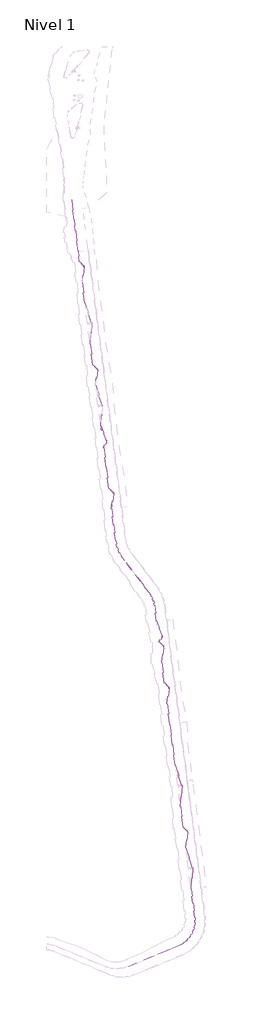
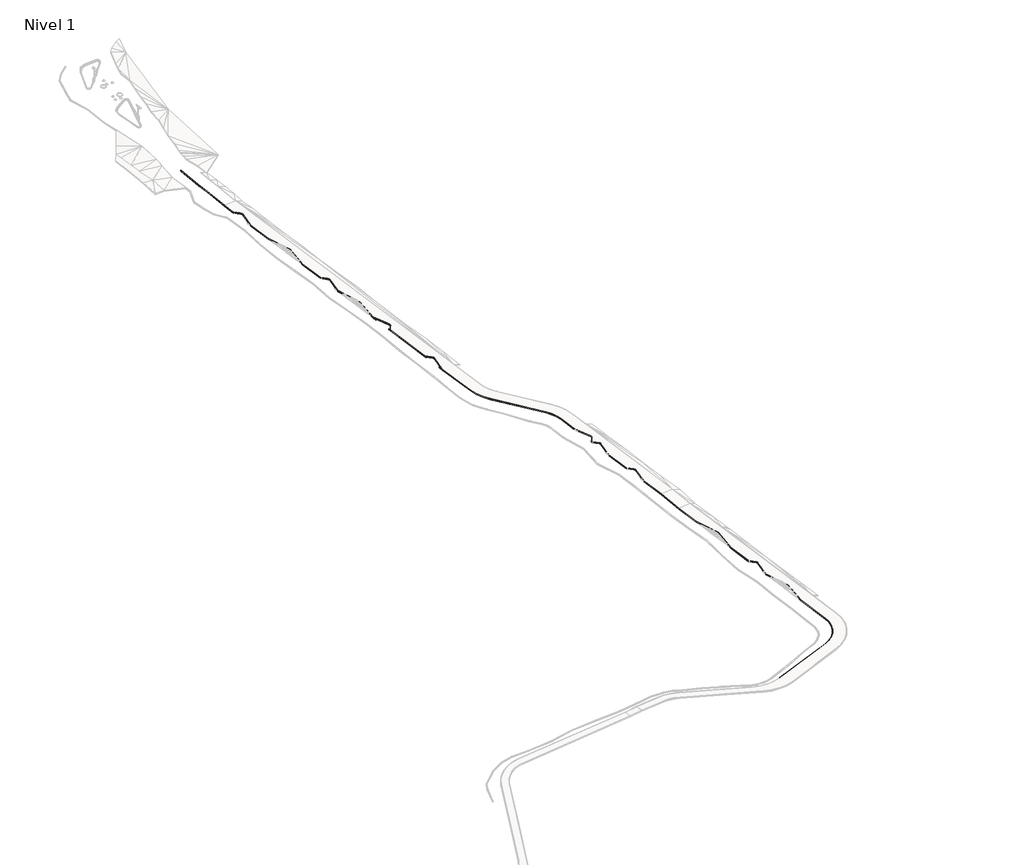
# One storey, part 33 of 45: 3 slabs.
"""IFC4 building model written with IfcOpenShell, lengths in millimetres."""

from ifc_helpers import new_model, si_unit, point, frame, frame_2d, origin, place, context, project, spatial, polyline, circle_curve, trimmed, segment, composite_curve, outline, extrude, element, save
from ifc_brep_helpers import plane_surface, cylinder_surface, revolved_surface, advanced_brep

model = new_model("IFC4")

# Units and contexts
model_context = context("Model", 3, world=origin())
ifc_project = project(units=[si_unit("LENGTHUNIT", "METRE", prefix="MILLI")], contexts=[model_context])

# Site, building, storey
site = spatial("IfcSite", under=ifc_project)
building = spatial("IfcBuilding", under=site)
storey = spatial("IfcBuildingStorey", under=building, Name="Nivel 1", Elevation=0.0)

# Slabs
placement = place(None, origin())
element("IfcSlab", 1, ObjectType="Bordillo", at=placement, inside=storey, context=model_context, shape_type="AdvancedBrep", body=[
    advanced_brep(
    [(-191752.4033753, 446877.2860207, 4350.0), (-191752.4033753, 446877.2860207, 4750.0), (-191809.5228519, 447015.9848449, 4750.0), (-191809.5228519, 447015.9848449, 4350.0), (-167709.0971534, 456941.1136943, 4750.0), (-167709.0971534, 456941.1136943, 4350.0), (-159981.0509617, 470263.5969741, 4750.0), (-159981.0509617, 470263.5969741, 4350.0), (-161775.4920715, 484112.1411496, 4750.0), (-161775.4920715, 484112.1411496, 4350.0), (-161077.1108433, 494283.8557062, 4750.0), (-161077.1108433, 494283.8557062, 4350.0), (-164345.3950718, 503943.9916437, 4750.0), (-164345.3950718, 503943.9916437, 4350.0), (-163385.5285954, 511173.6350351, 4750.0), (-163385.5285954, 511173.6350351, 4350.0), (-163689.9516479, 511993.7174483, 4750.0), (-163689.9516479, 511993.7174483, 4350.0), (-165630.2503622, 513861.1198989, 4750.0), (-165630.2503622, 513861.1198989, 4350.0), (-166916.4576109, 523787.3848475, 4750.0), (-166916.4576109, 523787.3848475, 4350.0), (-166218.2574986, 533956.5969171, 4750.0), (-166218.2574986, 533956.5969171, 4350.0), (-169485.4560414, 543613.5513551, 4750.0), (-169485.4560414, 543613.5513551, 4350.0), (-170770.8849864, 553533.8097694, 4750.0), (-172055.9037253, 563450.9024303, 5250.0), (-173341.2547359, 573370.5593883, 5250.0), (-173341.2547359, 573370.5593883, 4850.0), (-172055.9037253, 563450.9024303, 4850.0), (-170770.8849864, 553533.8097694, 4350.0), (-172381.7190355, 580597.7113986, 5250.0), (-172381.7190355, 580597.7113986, 4850.0), (-172683.5635527, 581415.263356, 5250.0), (-172683.5635527, 581415.263356, 4850.0), (-174625.8747591, 583284.5749733, 5250.0), (-174625.8747591, 583284.5749733, 4850.0), (-175911.1336954, 593203.5213511, 5250.0), (-175911.1336954, 593203.5213511, 4850.0), (-174951.4315532, 600431.9269892, 5250.0), (-174951.4315532, 600431.9269892, 4850.0), (-175250.9829701, 601247.2781028, 5250.0), (-175250.9829701, 601247.2781028, 4850.0), (-177196.1548619, 603119.3706476, 5250.0), (-177196.1548619, 603119.3706476, 4850.0), (-175793.0105859, 605424.1582618, 5250.0), (-175793.0105859, 605424.1582618, 4850.0), (-175710.4141445, 606290.1126058, 5250.0), (-175710.4141445, 606290.1126058, 4850.0), (-178481.0134431, 613036.4893962, 5250.0), (-178481.0134431, 613036.4893962, 4850.0), (-179466.4078394, 620641.2403939, 5250.0), (-179466.4078394, 620641.2403939, 4850.0), (-181959.909877, 626696.0192769, 5250.0), (-181959.909877, 626696.0192769, 4850.0), (-194650.3061727, 643304.5613222, 5250.0), (-194650.3061727, 643304.5613222, 4850.0), (-198129.3821314, 651752.5334234, 5250.0), (-198129.3821314, 651752.5334234, 4850.0), (-200129.2747526, 667186.6433225, 5250.0), (-200129.2747526, 667186.6433225, 4850.0), (-199168.9424952, 674414.3303817, 5250.0), (-199168.9424952, 674414.3303817, 4850.0), (-199470.7066865, 675231.9254725, 5250.0), (-199470.7066865, 675231.9254725, 4850.0), (-201414.1606005, 677102.7104021, 5250.0), (-201414.1606005, 677102.7104021, 4850.0), (-203984.8342511, 696941.8053698, 5250.0), (-203984.8342511, 696941.8053698, 4850.0), (-202582.3674662, 699246.1703275, 5250.0), (-202582.3674662, 699246.1703275, 4850.0), (-202498.83608, 700113.327676, 5250.0), (-202498.83608, 700113.327676, 4850.0), (-205269.7283256, 706857.8851835, 5250.0), (-205269.7283256, 706857.8851835, 4850.0), (-204571.2932164, 717030.482757, 5250.0), (-204571.2932164, 717030.482757, 4850.0), (-207839.5681431, 726690.6186945, 5250.0), (-207839.5681431, 726690.6186945, 4850.0), (-206879.3910327, 733920.2555993, 5250.0), (-206879.3910327, 733920.2555993, 4850.0), (-207178.3272401, 734734.5374719, 5250.0), (-207178.3272401, 734734.5374719, 4850.0), (-209124.6230109, 736607.9673091, 5250.0), (-209124.6230109, 736607.9673091, 4850.0), (-210409.8014175, 746526.292202, 5250.0), (-210409.8014175, 746526.292202, 4850.0), (-209711.3701695, 756698.8335382, 5250.0), (-209711.3701695, 756698.8335382, 4850.0), (-212979.6424897, 766358.9617715, 5250.0), (-212979.6424897, 766358.9617715, 4850.0), (-214264.5024268, 776274.828885, 5250.0), (-214264.5024268, 776274.828885, 4850.0), (-213306.81385, 783488.1341548, 5250.0), (-213306.81385, 783488.1341548, 4850.0), (-213608.5193686, 784325.5006785, 5250.0), (-213608.5193686, 784325.5006785, 4850.0), (-215549.7700715, 786193.8424695, 5250.0), (-215549.7700715, 786193.8424695, 4850.0), (-216192.1960794, 791151.7454603, 5250.0), (-217477.2148181, 801068.8381207, 5750.0), (-218119.4350585, 806025.153107, 5750.0), (-219404.7429263, 815944.4771121, 6250.0), (-219404.7429263, 815944.4771121, 5850.0), (-218119.4350585, 806025.153107, 5350.0), (-217477.2148181, 801068.8381207, 5350.0), (-216192.1960794, 791151.7454603, 4850.0), (-219255.9865365, 815963.7523932, 6250.0), (-219255.9865365, 815963.7523932, 5850.0), (-217970.9677979, 806046.659734, 5750.0), (-217970.9677979, 806046.659734, 5350.0), (-217328.4584283, 801088.1134017, 5750.0), (-217328.4584283, 801088.1134017, 5350.0), (-216043.4396896, 791171.0207414, 5250.0), (-216043.4396896, 791171.0207414, 4850.0), (-215407.785206, 786265.376782, 5250.0), (-215407.785206, 786265.376782, 4850.0), (-213499.8242939, 784429.0744036, 5250.0), (-213499.8242939, 784429.0744036, 4850.0), (-213154.1222704, 783498.4930944, 5250.0), (-213154.1222704, 783498.4930944, 4850.0), (-214113.2176747, 776274.5916073, 5250.0), (-214113.2176747, 776274.5916073, 4850.0), (-212832.794568, 766392.9655953, 5250.0), (-212832.794568, 766392.9655953, 4850.0), (-209559.6675729, 756718.4882576, 5250.0), (-209559.6675729, 756718.4882576, 4850.0), (-210259.1362671, 746530.8366807, 5250.0), (-210259.1362671, 746530.8366807, 4850.0), (-208982.6381189, 736679.5014153, 5250.0), (-208982.6381189, 736679.5014153, 4850.0), (-207073.2746585, 734841.8411962, 5250.0), (-207073.2746585, 734841.8411962, 4850.0), (-206730.6761136, 733903.0743397, 5250.0), (-206730.6761136, 733903.0743397, 4850.0), (-207686.2689375, 726705.5542697, 5250.0), (-207686.2689375, 726705.5542697, 4850.0), (-204419.5906198, 717050.1374763, 5250.0), (-204419.5906198, 717050.1374763, 4850.0), (-205117.6837799, 706882.520338, 5250.0), (-205117.6837799, 706882.520338, 4850.0), (-202359.121557, 700167.9750214, 5250.0), (-202359.121557, 700167.9750214, 4850.0), (-202454.2396451, 699168.1953076, 5250.0), (-202454.2396451, 699168.1953076, 4850.0), (-203829.3073429, 696908.8293797, 5250.0), (-203829.3073429, 696908.8293797, 4850.0), (-201272.1748478, 677174.2378634, 5250.0), (-201272.1748478, 677174.2378634, 4850.0), (-199366.6729851, 675340.0011711, 5250.0), (-199366.6729851, 675340.0011711, 4850.0), (-199019.9175106, 674397.0706424, 5250.0), (-199019.9175106, 674397.0706424, 4850.0), (-199977.9890221, 667186.3984903, 5250.0), (-199977.9890221, 667186.3984903, 4850.0), (-197980.6257425, 651771.8087074, 5250.0), (-197980.6257425, 651771.8087074, 4850.0), (-194531.0540114, 643395.5499638, 5250.0), (-194531.0540114, 643395.5499638, 4850.0), (-181840.7207033, 626787.0903533, 5250.0), (-181840.7207033, 626787.0903533, 4850.0), (-179317.6514514, 620660.5156819, 5250.0), (-179317.6514514, 620660.5156819, 4850.0), (-178334.7850986, 613075.2747819, 5250.0), (-178334.7850986, 613075.2747819, 4850.0), (-175570.7025337, 606344.7661615, 5250.0), (-175570.7025337, 606344.7661615, 4850.0), (-175666.8189576, 605342.9826292, 5250.0), (-175666.8189576, 605342.9826292, 4850.0), (-177005.5067574, 603144.0704339, 5250.0), (-177005.5067574, 603144.0704339, 4850.0), (-175146.8008777, 601355.1954069, 5250.0), (-175146.8008777, 601355.1954069, 4850.0), (-174802.4048673, 600414.6819461, 5250.0), (-174802.4048673, 600414.6819461, 4850.0), (-175759.8489322, 593203.2839796, 5250.0), (-175759.8489322, 593203.2839796, 4850.0), (-174483.8900528, 583356.1105053, 5250.0), (-174483.8900528, 583356.1105053, 4850.0), (-172579.5462691, 581523.3428887, 5250.0), (-172579.5462691, 581523.3428887, 4850.0), (-172232.6922349, 580580.46722, 5250.0), (-172232.6922349, 580580.46722, 4850.0), (-173189.9699727, 573370.3220163, 5250.0), (-173189.9699727, 573370.3220163, 4850.0), (-171907.1473369, 563470.1777123, 5250.0), (-170622.1285981, 553553.0850515, 4750.0), (-169338.6081218, 543647.5551851, 4750.0), (-169338.6081218, 543647.5551851, 4350.0), (-170622.1285981, 553553.0850515, 4350.0), (-171907.1473369, 563470.1777123, 4850.0), (-166066.5549083, 533976.2516549, 4750.0), (-166066.5549083, 533976.2516549, 4350.0), (-166765.7924631, 523791.9293428, 4750.0), (-166765.7924631, 523791.9293428, 4350.0), (-165488.2655648, 513932.6547307, 4750.0), (-165488.2655648, 513932.6547307, 4350.0), (-163580.5776375, 512096.6378926, 4750.0), (-163580.5776375, 512096.6378926, 4350.0), (-163236.5023, 511156.3870508, 4750.0), (-163236.5023, 511156.3870508, 4350.0), (-164192.0958272, 503958.9271977, 4750.0), (-164192.0958272, 503958.9271977, 4350.0), (-160925.4082257, 494303.510444, 4750.0), (-160925.4082257, 494303.510444, 4350.0), (-161624.826915, 484116.6855752, 4750.0), (-161624.826915, 484116.6855752, 4350.0), (-159832.2945725, 470282.8722606, 4750.0), (-159832.2945725, 470282.8722606, 4350.0), (-167651.977673, 456802.4148667, 4750.0), (-167651.977673, 456802.4148667, 4350.0), (-187940.3370927, 448447.18563, 4750.0), (-187940.3370927, 448447.18563, 4350.0)],
    [
        (0, 1),
        (1, 2),
        (2, 3),
        (3, 0),
        (2, 4),
        (4, 5),
        (5, 3),
        (4, 6, circle_curve(frame((-172526.1731767, 468638.048275, 4750.0), z_axis=(0.0, 0.0, 1.0), x_axis=(1.0, 0.0, 0.0)), 12649.9999985)),
        (6, 7),
        (7, 5, circle_curve(frame((-172526.1731767, 468638.048275, 4350.0), z_axis=(0.0, 0.0, -1.0), x_axis=(1.0, 0.0, 0.0)), 12649.9999985)),
        (6, 8),
        (8, 9),
        (9, 7),
        (8, 10),
        (10, 11),
        (11, 9),
        (10, 12),
        (12, 13),
        (13, 11),
        (12, 14),
        (14, 15),
        (15, 13),
        (14, 16, circle_curve(frame((-164380.8044938, 511270.7220489, 4750.0), z_axis=(0.0, 0.0, 1.0), x_axis=(1.0, 0.0, 0.0)), 1000.0000011)),
        (16, 17),
        (17, 15, circle_curve(frame((-164380.8044938, 511270.7220489, 4350.0), z_axis=(0.0, 0.0, -1.0), x_axis=(1.0, 0.0, 0.0)), 1000.0000011)),
        (16, 18),
        (18, 19),
        (19, 17),
        (18, 20),
        (20, 21),
        (21, 19),
        (20, 22),
        (22, 23),
        (23, 21),
        (22, 24),
        (24, 25),
        (25, 23),
        (24, 26),
        (26, 27),
        (27, 28),
        (28, 29),
        (29, 30),
        (30, 31),
        (31, 25),
        (28, 32),
        (32, 33),
        (33, 29),
        (32, 34, circle_curve(frame((-173377.0000821, 580694.7456362, 5250.0), z_axis=(0.0, 0.0, 1.0), x_axis=(1.0, 0.0, 0.0)), 1000.0000025)),
        (34, 35),
        (35, 33, circle_curve(frame((-173377.0000821, 580694.7456362, 4850.0), z_axis=(0.0, 0.0, -1.0), x_axis=(1.0, 0.0, 0.0)), 1000.0000025)),
        (34, 36),
        (36, 37),
        (37, 35),
        (36, 38),
        (38, 39),
        (39, 37),
        (38, 40),
        (40, 41),
        (41, 39),
        (40, 42, circle_curve(frame((-175946.7114283, 600528.9732149, 5250.0), z_axis=(0.0, 0.0, 1.0), x_axis=(1.0, 0.0, 0.0)), 999.9999998)),
        (42, 43),
        (43, 41, circle_curve(frame((-175946.7114283, 600528.9732149, 4850.0), z_axis=(0.0, 0.0, -1.0), x_axis=(1.0, 0.0, 0.0)), 999.9999998)),
        (42, 44),
        (44, 45),
        (45, 43),
        (44, 46),
        (46, 47),
        (47, 45),
        (46, 48, circle_curve(frame((-176648.1023864, 605942.6348904, 5250.0), z_axis=(0.0, 0.0, 1.0), x_axis=(1.0, 0.0, 0.0)), 1000.0000009)),
        (48, 49),
        (49, 47, circle_curve(frame((-176648.1023864, 605942.6348904, 4850.0), z_axis=(0.0, 0.0, -1.0), x_axis=(1.0, 0.0, 0.0)), 1000.0000009)),
        (48, 50),
        (50, 51),
        (51, 49),
        (50, 52),
        (52, 53),
        (53, 51),
        (52, 54, circle_curve(frame((-192011.530073, 619015.691687, 5250.0), z_axis=(0.0, 0.0, 1.0), x_axis=(1.0, 0.0, 0.0)), 12650.0000179)),
        (54, 55),
        (55, 53, circle_curve(frame((-192011.530073, 619015.691687, 4850.0), z_axis=(0.0, 0.0, -1.0), x_axis=(1.0, 0.0, 0.0)), 12650.0000179)),
        (54, 56),
        (56, 57),
        (57, 55),
        (56, 58, circle_curve(frame((-180625.7135945, 654020.5914961, 5250.0), z_axis=(0.0, 0.0, -1.0), x_axis=(1.0, 0.0, 0.0)), 17649.9999906)),
        (58, 59),
        (59, 57, circle_curve(frame((-180625.7135945, 654020.5914961, 4850.0), z_axis=(0.0, 0.0, 1.0), x_axis=(1.0, 0.0, 0.0)), 17649.9999906)),
        (58, 60),
        (60, 61),
        (61, 59),
        (60, 62),
        (62, 63),
        (63, 61),
        (62, 64, circle_curve(frame((-200164.2127988, 674511.4747291, 5250.0), z_axis=(0.0, 0.0, 1.0), x_axis=(1.0, 0.0, 0.0)), 1000.0000007)),
        (64, 65),
        (65, 63, circle_curve(frame((-200164.2127988, 674511.4747291, 4850.0), z_axis=(0.0, 0.0, -1.0), x_axis=(1.0, 0.0, 0.0)), 1000.0000007)),
        (64, 66),
        (66, 67),
        (67, 65),
        (66, 68),
        (68, 69),
        (69, 67),
        (68, 70),
        (70, 71),
        (71, 69),
        (70, 72, circle_curve(frame((-203436.6063179, 699766.0713145, 5250.0), z_axis=(0.0, 0.0, 1.0), x_axis=(1.0, 0.0, 0.0)), 999.9999998)),
        (72, 73),
        (73, 71, circle_curve(frame((-203436.6063179, 699766.0713145, 4850.0), z_axis=(0.0, 0.0, -1.0), x_axis=(1.0, 0.0, 0.0)), 999.9999998)),
        (72, 74),
        (74, 75),
        (75, 73),
        (74, 76),
        (76, 77),
        (77, 75),
        (76, 78),
        (78, 79),
        (79, 77),
        (78, 80),
        (80, 81),
        (81, 79),
        (80, 82, circle_curve(frame((-207874.5464643, 734016.9308714, 5250.0), z_axis=(0.0, 0.0, 1.0), x_axis=(1.0, 0.0, 0.0)), 999.8402079)),
        (82, 83),
        (83, 81, circle_curve(frame((-207874.5464643, 734016.9308714, 4850.0), z_axis=(0.0, 0.0, -1.0), x_axis=(1.0, 0.0, 0.0)), 999.8402079)),
        (82, 84),
        (84, 85),
        (85, 83),
        (84, 86),
        (86, 87),
        (87, 85),
        (86, 88),
        (88, 89),
        (89, 87),
        (88, 90),
        (90, 91),
        (91, 89),
        (90, 92),
        (92, 93),
        (93, 91),
        (92, 94),
        (94, 95),
        (95, 93),
        (94, 96, circle_curve(frame((-214300.1617277, 783603.2640509, 5250.0), z_axis=(0.0, 0.0, 1.0), x_axis=(1.0, 0.0, 0.0)), 999.9974495)),
        (96, 97),
        (97, 95, circle_curve(frame((-214300.1617277, 783603.2640509, 4850.0), z_axis=(0.0, 0.0, -1.0), x_axis=(1.0, 0.0, 0.0)), 999.9974495)),
        (96, 98),
        (98, 99),
        (99, 97),
        (98, 100),
        (100, 101),
        (101, 102),
        (102, 103),
        (103, 104),
        (104, 105),
        (105, 106),
        (106, 107),
        (107, 99),
        (103, 108),
        (108, 109),
        (109, 104),
        (108, 110),
        (110, 111),
        (111, 109),
        (110, 112),
        (112, 113),
        (113, 111),
        (112, 114),
        (114, 115),
        (115, 113),
        (114, 116),
        (116, 117),
        (117, 115),
        (116, 118),
        (118, 119),
        (119, 117),
        (118, 120, circle_curve(frame((-214299.4041498, 783602.5350161, 5250.0), z_axis=(0.0, 0.0, -1.0), x_axis=(1.0, 0.0, 0.0)), 1149.9979587)),
        (120, 121),
        (121, 119, circle_curve(frame((-214299.4041498, 783602.5350161, 4850.0), z_axis=(0.0, 0.0, 1.0), x_axis=(1.0, 0.0, 0.0)), 1149.9979587)),
        (120, 122),
        (122, 123),
        (123, 121),
        (122, 124),
        (124, 125),
        (125, 123),
        (124, 126),
        (126, 127),
        (127, 125),
        (126, 128),
        (128, 129),
        (129, 127),
        (128, 130),
        (130, 131),
        (131, 129),
        (130, 132),
        (132, 133),
        (133, 131),
        (132, 134, circle_curve(frame((-207874.9829101, 734017.3632527, 5250.0), z_axis=(0.0, 0.0, -1.0), x_axis=(1.0, 0.0, 0.0)), 1150.0)),
        (134, 135),
        (135, 133, circle_curve(frame((-207874.9829101, 734017.3632527, 4850.0), z_axis=(0.0, 0.0, 1.0), x_axis=(1.0, 0.0, 0.0)), 1150.0)),
        (134, 136),
        (136, 137),
        (137, 135),
        (136, 138),
        (138, 139),
        (139, 137),
        (138, 140),
        (140, 141),
        (141, 139),
        (140, 142),
        (142, 143),
        (143, 141),
        (142, 144, circle_curve(frame((-203436.6063179, 699766.0713145, 5250.0), z_axis=(0.0, 0.0, -1.0), x_axis=(1.0, 0.0, 0.0)), 1149.9999998)),
        (144, 145),
        (145, 143, circle_curve(frame((-203436.6063179, 699766.0713145, 4850.0), z_axis=(0.0, 0.0, 1.0), x_axis=(1.0, 0.0, 0.0)), 1149.9999998)),
        (144, 146),
        (146, 147),
        (147, 145),
        (146, 148),
        (148, 149),
        (149, 147),
        (148, 150),
        (150, 151),
        (151, 149),
        (150, 152, circle_curve(frame((-200164.2127988, 674511.4747291, 5250.0), z_axis=(0.0, 0.0, -1.0), x_axis=(1.0, 0.0, 0.0)), 1150.0000007)),
        (152, 153),
        (153, 151, circle_curve(frame((-200164.2127988, 674511.4747291, 4850.0), z_axis=(0.0, 0.0, 1.0), x_axis=(1.0, 0.0, 0.0)), 1150.0000007)),
        (152, 154),
        (154, 155),
        (155, 153),
        (154, 156),
        (156, 157),
        (157, 155),
        (156, 158, circle_curve(frame((-180625.7135884, 654020.5914999, 5250.0), z_axis=(0.0, 0.0, 1.0), x_axis=(1.0, 0.0, 0.0)), 17499.9999978)),
        (158, 159),
        (159, 157, circle_curve(frame((-180625.7135884, 654020.5914999, 4850.0), z_axis=(0.0, 0.0, -1.0), x_axis=(1.0, 0.0, 0.0)), 17499.9999978)),
        (158, 160),
        (160, 161),
        (161, 159),
        (160, 162, circle_curve(frame((-192011.530057, 619015.6916963, 5250.0), z_axis=(0.0, 0.0, -1.0), x_axis=(1.0, 0.0, 0.0)), 12799.9999999)),
        (162, 163),
        (163, 161, circle_curve(frame((-192011.530057, 619015.6916963, 4850.0), z_axis=(0.0, 0.0, 1.0), x_axis=(1.0, 0.0, 0.0)), 12799.9999999)),
        (162, 164),
        (164, 165),
        (165, 163),
        (164, 166),
        (166, 167),
        (167, 165),
        (166, 168, circle_curve(frame((-176648.1023864, 605942.6348904, 5250.0), z_axis=(0.0, 0.0, -1.0), x_axis=(1.0, 0.0, 0.0)), 1150.0000009)),
        (168, 169),
        (169, 167, circle_curve(frame((-176648.1023864, 605942.6348904, 4850.0), z_axis=(0.0, 0.0, 1.0), x_axis=(1.0, 0.0, 0.0)), 1150.0000009)),
        (168, 170),
        (170, 171),
        (171, 169),
        (170, 172),
        (172, 173),
        (173, 171),
        (172, 174, circle_curve(frame((-175946.7114283, 600528.9732149, 5250.0), z_axis=(0.0, 0.0, -1.0), x_axis=(1.0, 0.0, 0.0)), 1149.9999998)),
        (174, 175),
        (175, 173, circle_curve(frame((-175946.7114283, 600528.9732149, 4850.0), z_axis=(0.0, 0.0, 1.0), x_axis=(1.0, 0.0, 0.0)), 1149.9999998)),
        (174, 176),
        (176, 177),
        (177, 175),
        (176, 178),
        (178, 179),
        (179, 177),
        (178, 180),
        (180, 181),
        (181, 179),
        (180, 182, circle_curve(frame((-173377.0000821, 580694.7456362, 5250.0), z_axis=(0.0, 0.0, -1.0), x_axis=(1.0, 0.0, 0.0)), 1150.0000025)),
        (182, 183),
        (183, 181, circle_curve(frame((-173377.0000821, 580694.7456362, 4850.0), z_axis=(0.0, 0.0, 1.0), x_axis=(1.0, 0.0, 0.0)), 1150.0000025)),
        (182, 184),
        (184, 185),
        (185, 183),
        (184, 186),
        (186, 187),
        (187, 188),
        (188, 189),
        (189, 190),
        (190, 191),
        (191, 185),
        (188, 192),
        (192, 193),
        (193, 189),
        (192, 194),
        (194, 195),
        (195, 193),
        (194, 196),
        (196, 197),
        (197, 195),
        (196, 198),
        (198, 199),
        (199, 197),
        (198, 200, circle_curve(frame((-164380.8044938, 511270.7220489, 4750.0), z_axis=(0.0, 0.0, -1.0), x_axis=(1.0, 0.0, 0.0)), 1150.0000011)),
        (200, 201),
        (201, 199, circle_curve(frame((-164380.8044938, 511270.7220489, 4350.0), z_axis=(0.0, 0.0, 1.0), x_axis=(1.0, 0.0, 0.0)), 1150.0000011)),
        (200, 202),
        (202, 203),
        (203, 201),
        (202, 204),
        (204, 205),
        (205, 203),
        (204, 206),
        (206, 207),
        (207, 205),
        (206, 208),
        (208, 209),
        (209, 207),
        (208, 210, circle_curve(frame((-172526.173178, 468638.048275, 4750.0), z_axis=(0.0, 0.0, -1.0), x_axis=(1.0, 0.0, 0.0)), 12799.9999999)),
        (210, 211),
        (211, 209, circle_curve(frame((-172526.173178, 468638.048275, 4350.0), z_axis=(0.0, 0.0, 1.0), x_axis=(1.0, 0.0, 0.0)), 12799.9999999)),
        (210, 212),
        (212, 213),
        (213, 211),
        (212, 1),
        (0, 213),
        (187, 26),
        (31, 190),
        (110, 102),
        (101, 112),
        (113, 106),
        (105, 111),
        (103, 110),
        (111, 104),
        (100, 114),
        (115, 107),
        (27, 186),
        (191, 30),
    ],
    [
        plane_surface(frame((-191752.4033753, 446877.2860207, 4600.0), z_axis=(-0.9246588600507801, -0.38079652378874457, 0.0), x_axis=(0.0, 0.0, 1.0))),
        plane_surface(frame((-191809.5228519, 447015.9848449, 4600.0), z_axis=(-0.38079652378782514, 0.9246588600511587, 0.0), x_axis=(0.0, 0.0, 1.0))),
        revolved_surface(polyline([(-159876.1731782, 468638.048275, 4750.0), (-159876.1731782, 468638.048275, 4350.0)]), (-172526.1731767, 468638.048275, 5000.0), (0.0, 0.0, 1.0)),
        plane_surface(frame((-159981.0509617, 470263.5969741, 4600.0), z_axis=(-0.991709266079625, -0.1285018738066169, 0.0), x_axis=(0.0, 0.0, 1.0))),
        plane_surface(frame((-161775.4920715, 484112.1411496, 4600.0), z_axis=(-0.9976512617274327, 0.06849788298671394, 0.0), x_axis=(0.0, 0.0, 1.0))),
        plane_surface(frame((-161077.1108433, 494283.8557062, 4600.0), z_axis=(-0.9472546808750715, -0.32048177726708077, 0.0), x_axis=(0.0, 0.0, 1.0))),
        plane_surface(frame((-164345.3950718, 503943.9916437, 4600.0), z_axis=(-0.9913011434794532, 0.1316132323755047, 0.0), x_axis=(0.0, 0.0, 1.0))),
        revolved_surface(polyline([(-163380.8044927, 511270.7220489, 4750.0), (-163380.8044927, 511270.7220489, 4350.0)]), (-164380.8044938, 511270.7220489, 5000.0), (0.0, 0.0, 1.0)),
        plane_surface(frame((-163689.9516479, 511993.7174483, 4600.0), z_axis=(-0.6934425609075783, -0.7205119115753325, 0.0), x_axis=(0.0, 0.0, 1.0))),
        plane_surface(frame((-165630.2503622, 513861.1198989, 4600.0), z_axis=(-0.9917092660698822, -0.1285018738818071, 0.0), x_axis=(0.0, 0.0, 1.0))),
        plane_surface(frame((-166916.4576109, 523787.3848475, 4600.0), z_axis=(-0.9976513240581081, 0.06849697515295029, 0.0), x_axis=(0.0, 0.0, 1.0))),
        plane_surface(frame((-166218.2574986, 533956.5969171, 4600.0), z_axis=(-0.9472549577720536, -0.3204809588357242, 0.0), x_axis=(0.0, 0.0, 1.0))),
        plane_surface(frame((-169485.4560414, 543613.5513551, 4600.0), z_axis=(-0.9917092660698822, -0.12850187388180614, 0.0), x_axis=(0.0, 0.0, 1.0))),
        plane_surface(frame((-173341.2547359, 573370.5593883, 4600.0), z_axis=(-0.991301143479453, 0.13161323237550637, 0.0), x_axis=(0.0, 0.0, 1.0))),
        revolved_surface(polyline([(-172377.00007960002, 580694.7456362, 5250.0), (-172377.00007960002, 580694.7456362, 4850.0)]), (-173377.0000821, 580694.7456362, 5000.0), (0.0, 0.0, 1.0)),
        plane_surface(frame((-172683.5617482, 581415.265231, 4600.0), z_axis=(-0.6934365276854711, -0.7205177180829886, 0.0), x_axis=(0.0, 0.0, 1.0))),
        plane_surface(frame((-174625.8747591, 583284.5749733, 4600.0), z_axis=(-0.991709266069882, -0.12850187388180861, 0.0), x_axis=(0.0, 0.0, 1.0))),
        plane_surface(frame((-175911.1336954, 593203.5213511, 4600.0), z_axis=(-0.9913011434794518, 0.13161323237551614, 0.0), x_axis=(0.0, 0.0, 1.0))),
        revolved_surface(polyline([(-174946.7114285, 600528.9732149, 5250.0), (-174946.7114285, 600528.9732149, 4850.0)]), (-175946.7114283, 600528.9732149, 5000.0), (0.0, 0.0, 1.0)),
        plane_surface(frame((-175250.9829701, 601247.2781028, 4600.0), z_axis=(-0.6934425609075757, -0.720511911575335, 0.0), x_axis=(0.0, 0.0, 1.0))),
        plane_surface(frame((-177196.1548619, 603119.3706476, 4600.0), z_axis=(-0.8541606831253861, 0.5200091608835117, 0.0), x_axis=(0.0, 0.0, 1.0))),
        revolved_surface(polyline([(-175648.10238549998, 605942.6348904, 5250.0), (-175648.10238549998, 605942.6348904, 4850.0)]), (-176648.1023864, 605942.6348904, 5000.0), (0.0, 0.0, 1.0)),
        plane_surface(frame((-175710.4141445, 606290.1126058, 4600.0), z_axis=(-0.9250310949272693, -0.3798913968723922, 0.0), x_axis=(0.0, 0.0, 1.0))),
        plane_surface(frame((-178481.0134431, 613036.4893962, 4600.0), z_axis=(-0.9917092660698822, -0.1285018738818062, 0.0), x_axis=(0.0, 0.0, 1.0))),
        revolved_surface(polyline([(-179361.5300551, 619015.691687, 5250.0), (-179361.5300551, 619015.691687, 4850.0)]), (-192011.530073, 619015.691687, 5000.0), (0.0, 0.0, 1.0)),
        plane_surface(frame((-181959.909877, 626696.0192769, 4600.0), z_axis=(-0.7945944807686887, -0.6071405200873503, 0.0), x_axis=(0.0, 0.0, 1.0))),
        cylinder_surface(frame((-180625.7135945, 654020.5914961, 5000.0), z_axis=(0.0, 0.0, -1.0), x_axis=(1.0, 0.0, 0.0)), 17649.9999906),
        plane_surface(frame((-198129.3821314, 651752.5334234, 4600.0), z_axis=(-0.991709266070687, -0.128501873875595, 0.0), x_axis=(0.0, 0.0, 1.0))),
        plane_surface(frame((-200129.2747526, 667186.6433225, 4600.0), z_axis=(-0.9912881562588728, 0.13171101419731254, 0.0), x_axis=(0.0, 0.0, 1.0))),
        revolved_surface(polyline([(-199164.2127981, 674511.4747291, 5250.0), (-199164.2127981, 674511.4747291, 4850.0)]), (-200164.2127988, 674511.4747291, 5000.0), (0.0, 0.0, 1.0)),
        plane_surface(frame((-199470.6989019, 675231.9335596, 4600.0), z_axis=(-0.6935061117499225, -0.7204507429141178, 0.0), x_axis=(0.0, 0.0, 1.0))),
        plane_surface(frame((-201414.1606005, 677102.7104021, 4600.0), z_axis=(-0.9917092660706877, -0.12850187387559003, 0.0), x_axis=(0.0, 0.0, 1.0))),
        plane_surface(frame((-203984.8342511, 696941.8053698, 4600.0), z_axis=(-0.8542298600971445, 0.5198955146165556, 0.0), x_axis=(0.0, 0.0, 1.0))),
        revolved_surface(polyline([(-202436.6063181, 699766.0713145, 5250.0), (-202436.6063181, 699766.0713145, 4850.0)]), (-203436.6063179, 699766.0713145, 5000.0), (0.0, 0.0, 1.0)),
        plane_surface(frame((-202498.83608, 700113.327676, 4600.0), z_axis=(-0.924980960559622, -0.380013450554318, 0.0), x_axis=(0.0, 0.0, 1.0))),
        plane_surface(frame((-205269.7283256, 706857.8851835, 4600.0), z_axis=(-0.9976513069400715, 0.06849722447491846, 0.0), x_axis=(0.0, 0.0, 1.0))),
        plane_surface(frame((-204571.2932164, 717030.482757, 4600.0), z_axis=(-0.9472549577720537, -0.3204809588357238, 0.0), x_axis=(0.0, 0.0, 1.0))),
        plane_surface(frame((-207839.5681431, 726690.6186945, 4600.0), z_axis=(-0.9912955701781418, 0.13165520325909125, 0.0), x_axis=(0.0, 0.0, 1.0))),
        revolved_surface(polyline([(-206874.70625639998, 734016.9308714, 5250.0), (-206874.70625639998, 734016.9308714, 4850.0)]), (-207874.5464643, 734016.9308714, 5000.0), (0.0, 0.0, 1.0)),
        plane_surface(frame((-207178.3272401, 734734.5374719, 4600.0), z_axis=(-0.6934916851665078, -0.7204646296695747, 0.0), x_axis=(0.0, 0.0, 1.0))),
        plane_surface(frame((-209124.6230109, 736607.9673091, 4600.0), z_axis=(-0.9917092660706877, -0.12850187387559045, 0.0), x_axis=(0.0, 0.0, 1.0))),
        plane_surface(frame((-210409.8014175, 746526.292202, 4600.0), z_axis=(-0.9976513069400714, 0.06849722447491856, 0.0), x_axis=(0.0, 0.0, 1.0))),
        plane_surface(frame((-209711.3701695, 756698.8335382, 4600.0), z_axis=(-0.9472549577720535, -0.32048095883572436, 0.0), x_axis=(0.0, 0.0, 1.0))),
        plane_surface(frame((-212979.6424897, 766358.9617715, 4600.0), z_axis=(-0.9917092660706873, -0.1285018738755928, 0.0), x_axis=(0.0, 0.0, 1.0))),
        plane_surface(frame((-214264.5024268, 776274.828885, 4600.0), z_axis=(-0.9913012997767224, 0.13161205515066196, 0.0), x_axis=(0.0, 0.0, 1.0))),
        revolved_surface(polyline([(-213300.1642782, 783603.2640509, 5250.0), (-213300.1642782, 783603.2640509, 4850.0)]), (-214300.1617277, 783603.2640509, 5000.0), (0.0, 0.0, 1.0)),
        plane_surface(frame((-213608.5193686, 784325.5006785, 4600.0), z_axis=(-0.6934470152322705, -0.720507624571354, 0.0), x_axis=(0.0, 0.0, 1.0))),
        plane_surface(frame((-215549.7700715, 786193.8424695, 4600.0), z_axis=(-0.9917092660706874, -0.12850187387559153, 0.0), x_axis=(0.0, 0.0, 1.0))),
        plane_surface(frame((-219404.7429263, 815944.4771121, 4600.0), z_axis=(-0.12850187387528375, 0.9917092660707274, 0.0), x_axis=(0.0, 0.0, 1.0))),
        plane_surface(frame((-219255.9865365, 815963.7523932, 4600.0), z_axis=(0.9917092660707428, 0.12850187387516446, 0.0), x_axis=(0.0, 0.0, 1.0))),
        plane_surface(frame((-217970.9677979, 806046.659734, 4600.0), z_axis=(0.991709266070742, 0.12850187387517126, 0.0), x_axis=(0.0, 0.0, 1.0))),
        plane_surface(frame((-217328.4584283, 801088.1134017, 4600.0), z_axis=(0.9917092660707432, 0.12850187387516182, 0.0), x_axis=(0.0, 0.0, 1.0))),
        plane_surface(frame((-216043.4396896, 791171.0207414, 4600.0), z_axis=(0.9917092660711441, 0.1285018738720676, 0.0), x_axis=(0.0, 0.0, 1.0))),
        plane_surface(frame((-215407.785206, 786265.376782, 4600.0), z_axis=(0.6934470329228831, 0.7205076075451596, 0.0), x_axis=(0.0, 0.0, 1.0))),
        cylinder_surface(frame((-214299.4041498, 783602.5350161, 5000.0), z_axis=(0.0, 0.0, -1.0), x_axis=(1.0, 0.0, 0.0)), 1149.9979587),
        plane_surface(frame((-213154.1222704, 783498.4930944, 4600.0), z_axis=(0.9913012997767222, -0.13161205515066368, 0.0), x_axis=(0.0, 0.0, 1.0))),
        plane_surface(frame((-214113.2176747, 776274.5916073, 4600.0), z_axis=(0.9917092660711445, 0.128501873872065, 0.0), x_axis=(0.0, 0.0, 1.0))),
        plane_surface(frame((-212832.794568, 766392.9655953, 4600.0), z_axis=(0.947254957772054, 0.3204809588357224, 0.0), x_axis=(0.0, 0.0, 1.0))),
        plane_surface(frame((-209559.6675729, 756718.4882576, 4600.0), z_axis=(0.9976513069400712, -0.06849722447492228, 0.0), x_axis=(0.0, 0.0, 1.0))),
        plane_surface(frame((-210259.1362671, 746530.8366807, 4600.0), z_axis=(0.9917092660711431, 0.12850187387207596, 0.0), x_axis=(0.0, 0.0, 1.0))),
        plane_surface(frame((-208982.6381189, 736679.5014153, 4600.0), z_axis=(0.6934485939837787, 0.7205061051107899, 0.0), x_axis=(0.0, 0.0, 1.0))),
        cylinder_surface(frame((-207874.9829101, 734017.3632527, 5000.0), z_axis=(0.0, 0.0, -1.0), x_axis=(1.0, 0.0, 0.0)), 1150.0),
        plane_surface(frame((-206730.6761136, 733903.0743397, 4600.0), z_axis=(0.9913012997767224, -0.1316120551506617, 0.0), x_axis=(0.0, 0.0, 1.0))),
        plane_surface(frame((-207686.2689375, 726705.5542697, 4600.0), z_axis=(0.9472549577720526, 0.32048095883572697, 0.0), x_axis=(0.0, 0.0, 1.0))),
        plane_surface(frame((-204419.5906198, 717050.1374763, 4600.0), z_axis=(0.9976513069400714, -0.06849722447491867, 0.0), x_axis=(0.0, 0.0, 1.0))),
        plane_surface(frame((-205117.6837799, 706882.520338, 4600.0), z_axis=(0.9249809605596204, 0.3800134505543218, 0.0), x_axis=(0.0, 0.0, 1.0))),
        cylinder_surface(frame((-203436.6063179, 699766.0713145, 5000.0), z_axis=(0.0, 0.0, -1.0), x_axis=(1.0, 0.0, 0.0)), 1149.9999998),
        plane_surface(frame((-202454.2396451, 699168.1953076, 4600.0), z_axis=(0.8542318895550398, -0.519892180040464, 0.0), x_axis=(0.0, 0.0, 1.0))),
        plane_surface(frame((-203829.3073429, 696908.8293797, 4600.0), z_axis=(0.9917092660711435, 0.12850187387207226, 0.0), x_axis=(0.0, 0.0, 1.0))),
        plane_surface(frame((-201272.1748478, 677174.2378634, 4600.0), z_axis=(0.6935061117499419, 0.7204507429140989, 0.0), x_axis=(0.0, 0.0, 1.0))),
        cylinder_surface(frame((-200164.2127988, 674511.4747291, 5000.0), z_axis=(0.0, 0.0, -1.0), x_axis=(1.0, 0.0, 0.0)), 1150.0000007),
        plane_surface(frame((-199019.9175106, 674397.0706424, 4600.0), z_axis=(0.9912881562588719, -0.13171101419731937, 0.0), x_axis=(0.0, 0.0, 1.0))),
        plane_surface(frame((-199977.9890221, 667186.3984903, 4600.0), z_axis=(0.9917092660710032, 0.12850187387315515, 0.0), x_axis=(0.0, 0.0, 1.0))),
        revolved_surface(polyline([(-163125.71359059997, 654020.5914999, 5250.0), (-163125.71359059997, 654020.5914999, 4850.0)]), (-180625.7135884, 654020.5914999, 5000.0), (0.0, 0.0, 1.0)),
        plane_surface(frame((-194531.0540114, 643395.5499638, 4600.0), z_axis=(0.7945944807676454, 0.6071405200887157, 0.0), x_axis=(0.0, 0.0, 1.0))),
        cylinder_surface(frame((-192011.530057, 619015.6916963, 5000.0), z_axis=(0.0, 0.0, -1.0), x_axis=(1.0, 0.0, 0.0)), 12799.9999999),
        plane_surface(frame((-179317.6514514, 620660.5156819, 4600.0), z_axis=(0.9917092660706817, 0.128501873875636, 0.0), x_axis=(0.0, 0.0, 1.0))),
        plane_surface(frame((-178334.7850986, 613075.2747819, 4600.0), z_axis=(0.9250310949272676, 0.37989139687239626, 0.0), x_axis=(0.0, 0.0, 1.0))),
        cylinder_surface(frame((-176648.1023864, 605942.6348904, 5000.0), z_axis=(0.0, 0.0, -1.0), x_axis=(1.0, 0.0, 0.0)), 1150.0000009),
        plane_surface(frame((-175666.8189576, 605342.9826292, 4600.0), z_axis=(0.8541606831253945, -0.5200091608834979, 0.0), x_axis=(0.0, 0.0, 1.0))),
        plane_surface(frame((-177005.5067574, 603144.0704339, 4600.0), z_axis=(0.6934425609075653, 0.720511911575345, 0.0), x_axis=(0.0, 0.0, 1.0))),
        cylinder_surface(frame((-175946.7114283, 600528.9732149, 5000.0), z_axis=(0.0, 0.0, -1.0), x_axis=(1.0, 0.0, 0.0)), 1149.9999998),
        plane_surface(frame((-174802.4048673, 600414.6819461, 4600.0), z_axis=(0.9913011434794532, -0.13161323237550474, 0.0), x_axis=(0.0, 0.0, 1.0))),
        plane_surface(frame((-175759.8489322, 593203.2839796, 4600.0), z_axis=(0.9917092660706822, 0.12850187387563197, 0.0), x_axis=(0.0, 0.0, 1.0))),
        plane_surface(frame((-174483.8900528, 583356.1105053, 4600.0), z_axis=(0.6934365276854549, 0.7205177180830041, 0.0), x_axis=(0.0, 0.0, 1.0))),
        cylinder_surface(frame((-173377.0000821, 580694.7456362, 5000.0), z_axis=(0.0, 0.0, -1.0), x_axis=(1.0, 0.0, 0.0)), 1150.0000025),
        plane_surface(frame((-172232.6922349, 580580.46722, 4600.0), z_axis=(0.9913011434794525, -0.1316132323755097, 0.0), x_axis=(0.0, 0.0, 1.0))),
        plane_surface(frame((-173189.9699727, 573370.3220163, 4600.0), z_axis=(0.9917092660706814, 0.1285018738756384, 0.0), x_axis=(0.0, 0.0, 1.0))),
        plane_surface(frame((-169338.6081218, 543647.5551851, 4600.0), z_axis=(0.9472549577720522, 0.32048095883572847, 0.0), x_axis=(0.0, 0.0, 1.0))),
        plane_surface(frame((-166066.5549083, 533976.2516549, 4600.0), z_axis=(0.9976513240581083, -0.06849697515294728, 0.0), x_axis=(0.0, 0.0, 1.0))),
        plane_surface(frame((-166765.7924631, 523791.9293428, 4600.0), z_axis=(0.9917092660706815, 0.1285018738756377, 0.0), x_axis=(0.0, 0.0, 1.0))),
        plane_surface(frame((-165488.2655648, 513932.6547307, 4600.0), z_axis=(0.6934425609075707, 0.7205119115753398, 0.0), x_axis=(0.0, 0.0, 1.0))),
        cylinder_surface(frame((-164380.8044938, 511270.7220489, 5000.0), z_axis=(0.0, 0.0, -1.0), x_axis=(1.0, 0.0, 0.0)), 1150.0000011),
        plane_surface(frame((-163236.5023, 511156.3870508, 4600.0), z_axis=(0.991301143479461, -0.13161323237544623, 0.0), x_axis=(0.0, 0.0, 1.0))),
        plane_surface(frame((-164192.0958272, 503958.9271977, 4600.0), z_axis=(0.9472546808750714, 0.3204817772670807, 0.0), x_axis=(0.0, 0.0, 1.0))),
        plane_surface(frame((-160925.4082257, 494303.510444, 4600.0), z_axis=(0.9976512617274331, -0.06849788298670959, 0.0), x_axis=(0.0, 0.0, 1.0))),
        plane_surface(frame((-161624.826915, 484116.6855752, 4600.0), z_axis=(0.9917092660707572, 0.12850187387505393, 0.0), x_axis=(0.0, 0.0, 1.0))),
        cylinder_surface(frame((-172526.173178, 468638.048275, 5000.0), z_axis=(0.0, 0.0, -1.0), x_axis=(1.0, 0.0, 0.0)), 12799.9999999),
        plane_surface(frame((-167651.977673, 456802.4148667, 4600.0), z_axis=(0.38079652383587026, -0.9246588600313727, 0.0), x_axis=(0.0, 0.0, 1.0))),
        plane_surface(frame((-187940.3370927, 448447.18563, 4600.0), z_axis=(0.3807965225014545, -0.9246588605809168, 0.0), x_axis=(0.0, 0.0, 1.0))),
        plane_surface(frame((-167844.8973693, 501682.3660069, 4750.0), z_axis=(0.0, 0.0, 1.0), x_axis=(0.9246588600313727, 0.38079652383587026, 0.0))),
        plane_surface(frame((-167844.8973693, 501682.3660069, 4350.0), z_axis=(0.0, 0.0, -1.0), x_axis=(0.9246588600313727, 0.38079652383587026, 0.0))),
        plane_surface(frame((-217724.0190257, 803557.1910909, 5750.0), z_axis=(0.0, 0.0, 1.0), x_axis=(-0.12850187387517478, 0.9917092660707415, 0.0))),
        plane_surface(frame((-217724.0190257, 803557.1910909, 5350.0), z_axis=(0.0, 0.0, -1.0), x_axis=(-0.12850187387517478, 0.9917092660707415, 0.0))),
        plane_surface(frame((-218877.2324202, 812651.6297464, 6083.3333333), z_axis=(0.006417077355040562, -0.049523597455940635, 0.9987523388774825), x_axis=(-0.12834154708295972, 0.9904719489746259, 0.04993761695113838))),
        plane_surface(frame((-218877.2324202, 812651.6297464, 5683.3333333), z_axis=(-0.006417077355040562, 0.049523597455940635, -0.9987523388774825), x_axis=(-0.12834154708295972, 0.9904719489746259, 0.04993761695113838))),
        plane_surface(frame((-216760.3272538, 796119.929431, 5500.0), z_axis=(0.006417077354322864, -0.04952359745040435, 0.9987523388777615), x_axis=(-0.12834154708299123, 0.9904719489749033, 0.04993761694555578))),
        plane_surface(frame((-216760.3272538, 796119.929431, 5100.0), z_axis=(-0.006417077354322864, 0.04952359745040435, -0.9987523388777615), x_axis=(-0.12834154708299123, 0.9904719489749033, 0.04993761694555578))),
        plane_surface(frame((-218498.3819276, 809338.7633177, 5916.6666667), z_axis=(0.007158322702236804, -0.04941623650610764, 0.9987526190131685), x_axis=(-0.1431825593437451, 0.9884359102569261, 0.04993201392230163))),
        plane_surface(frame((-218498.3819276, 809338.7633177, 5516.6666667), z_axis=(-0.007158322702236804, 0.04941623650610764, -0.9987526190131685), x_axis=(-0.1431825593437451, 0.9884359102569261, 0.04993201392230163))),
        plane_surface(frame((-194759.9032532, 675268.1736068, 5250.0), z_axis=(0.0, 0.0, 1.0), x_axis=(0.1316132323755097, 0.9913011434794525, 0.0))),
        plane_surface(frame((-194759.9032532, 675268.1736068, 4850.0), z_axis=(0.0, 0.0, -1.0), x_axis=(0.1316132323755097, 0.9913011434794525, 0.0))),
        plane_surface(frame((-171339.0161617, 558501.9937409, 5000.0), z_axis=(0.006417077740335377, -0.049523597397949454, 0.9987523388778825), x_axis=(-0.9917092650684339, -0.12850188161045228, 0.0))),
        plane_surface(frame((-171339.0161617, 558501.9937409, 4600.0), z_axis=(-0.006417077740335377, 0.049523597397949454, -0.9987523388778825), x_axis=(-0.9917092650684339, -0.12850188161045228, 0.0))),
    ],
    [
        (0, [[1, 2, 3, 4]]),
        (1, [[-3, 5, 6, 7]]),
        (2, [[-6, 8, 9, 10]]),
        (3, [[-9, 11, 12, 13]]),
        (4, [[-12, 14, 15, 16]]),
        (5, [[-15, 17, 18, 19]]),
        (6, [[-18, 20, 21, 22]]),
        (7, [[-21, 23, 24, 25]]),
        (8, [[-24, 26, 27, 28]]),
        (9, [[-27, 29, 30, 31]]),
        (10, [[-30, 32, 33, 34]]),
        (11, [[-33, 35, 36, 37]]),
        (12, [[-36, 38, 39, 40, 41, 42, 43, 44]]),
        (13, [[-41, 45, 46, 47]]),
        (14, [[-46, 48, 49, 50]]),
        (15, [[-49, 51, 52, 53]]),
        (16, [[-52, 54, 55, 56]]),
        (17, [[-55, 57, 58, 59]]),
        (18, [[-58, 60, 61, 62]]),
        (19, [[-61, 63, 64, 65]]),
        (20, [[-64, 66, 67, 68]]),
        (21, [[-67, 69, 70, 71]]),
        (22, [[-70, 72, 73, 74]]),
        (23, [[-73, 75, 76, 77]]),
        (24, [[-76, 78, 79, 80]]),
        (25, [[-79, 81, 82, 83]]),
        (26, [[-82, 84, 85, 86]]),
        (27, [[-85, 87, 88, 89]]),
        (28, [[-88, 90, 91, 92]]),
        (29, [[-91, 93, 94, 95]]),
        (30, [[-94, 96, 97, 98]]),
        (31, [[-97, 99, 100, 101]]),
        (32, [[-100, 102, 103, 104]]),
        (33, [[-103, 105, 106, 107]]),
        (34, [[-106, 108, 109, 110]]),
        (35, [[-109, 111, 112, 113]]),
        (36, [[-112, 114, 115, 116]]),
        (37, [[-115, 117, 118, 119]]),
        (38, [[-118, 120, 121, 122]]),
        (39, [[-121, 123, 124, 125]]),
        (40, [[-124, 126, 127, 128]]),
        (41, [[-127, 129, 130, 131]]),
        (42, [[-130, 132, 133, 134]]),
        (43, [[-133, 135, 136, 137]]),
        (44, [[-136, 138, 139, 140]]),
        (45, [[-139, 141, 142, 143]]),
        (46, [[-142, 144, 145, 146]]),
        (47, [[-145, 147, 148, 149, 150, 151, 152, 153, 154, 155]]),
        (48, [[-151, 156, 157, 158]]),
        (49, [[-157, 159, 160, 161]]),
        (50, [[-160, 162, 163, 164]]),
        (51, [[-163, 165, 166, 167]]),
        (52, [[-166, 168, 169, 170]]),
        (53, [[-169, 171, 172, 173]]),
        (54, [[-172, 174, 175, 176]]),
        (55, [[-175, 177, 178, 179]]),
        (56, [[-178, 180, 181, 182]]),
        (57, [[-181, 183, 184, 185]]),
        (58, [[-184, 186, 187, 188]]),
        (59, [[-187, 189, 190, 191]]),
        (60, [[-190, 192, 193, 194]]),
        (61, [[-193, 195, 196, 197]]),
        (62, [[-196, 198, 199, 200]]),
        (63, [[-199, 201, 202, 203]]),
        (64, [[-202, 204, 205, 206]]),
        (65, [[-205, 207, 208, 209]]),
        (66, [[-208, 210, 211, 212]]),
        (67, [[-211, 213, 214, 215]]),
        (68, [[-214, 216, 217, 218]]),
        (69, [[-217, 219, 220, 221]]),
        (70, [[-220, 222, 223, 224]]),
        (71, [[-223, 225, 226, 227]]),
        (72, [[-226, 228, 229, 230]]),
        (73, [[-229, 231, 232, 233]]),
        (74, [[-232, 234, 235, 236]]),
        (75, [[-235, 237, 238, 239]]),
        (76, [[-238, 240, 241, 242]]),
        (77, [[-241, 243, 244, 245]]),
        (78, [[-244, 246, 247, 248]]),
        (79, [[-247, 249, 250, 251]]),
        (80, [[-250, 252, 253, 254]]),
        (81, [[-253, 255, 256, 257]]),
        (82, [[-256, 258, 259, 260]]),
        (83, [[-259, 261, 262, 263]]),
        (84, [[-262, 264, 265, 266]]),
        (85, [[-265, 267, 268, 269]]),
        (86, [[-268, 270, 271, 272]]),
        (87, [[-271, 273, 274, 275, 276, 277, 278, 279]]),
        (88, [[-276, 280, 281, 282]]),
        (89, [[-281, 283, 284, 285]]),
        (90, [[-284, 286, 287, 288]]),
        (91, [[-287, 289, 290, 291]]),
        (92, [[-290, 292, 293, 294]]),
        (93, [[-293, 295, 296, 297]]),
        (94, [[-296, 298, 299, 300]]),
        (95, [[-299, 301, 302, 303]]),
        (96, [[-302, 304, 305, 306]]),
        (97, [[-305, 307, 308, 309]]),
        (98, [[-308, 310, 311, 312]]),
        (99, [[-311, 313, -1, 314]]),
        (100, [[-310, -307, -304, -301, -298, -295, -292, -289, -286, -283, -280, -275, 315, -38, -35, -32, -29, -26, -23, -20, -17, -14, -11, -8, -5, -2, -313]]),
        (101, [[-314, -4, -7, -10, -13, -16, -19, -22, -25, -28, -31, -34, -37, -44, 316, -277, -282, -285, -288, -291, -294, -297, -300, -303, -306, -309, -312]]),
        (102, [[-162, 317, -149, 318]]),
        (103, [[319, -153, 320, -164]]),
        (104, [[-159, -156, 321]]),
        (105, [[322, -158, -161]]),
        (106, [[-165, -318, -148, 323]]),
        (107, [[324, -154, -319, -167]]),
        (108, [[-321, -150, -317]]),
        (109, [[-320, -152, -322]]),
        (110, [[-270, -267, -264, -261, -258, -255, -252, -249, -246, -243, -240, -237, -234, -231, -228, -225, -222, -219, -216, -213, -210, -207, -204, -201, -198, -195, -192, -189, -186, -183, -180, -177, -174, -171, -168, -323, -147, -144, -141, -138, -135, -132, -129, -126, -123, -120, -117, -114, -111, -108, -105, -102, -99, -96, -93, -90, -87, -84, -81, -78, -75, -72, -69, -66, -63, -60, -57, -54, -51, -48, -45, -40, 325, -273]]),
        (111, [[-279, 326, -42, -47, -50, -53, -56, -59, -62, -65, -68, -71, -74, -77, -80, -83, -86, -89, -92, -95, -98, -101, -104, -107, -110, -113, -116, -119, -122, -125, -128, -131, -134, -137, -140, -143, -146, -155, -324, -170, -173, -176, -179, -182, -185, -188, -191, -194, -197, -200, -203, -206, -209, -212, -215, -218, -221, -224, -227, -230, -233, -236, -239, -242, -245, -248, -251, -254, -257, -260, -263, -266, -269, -272]]),
        (112, [[-325, -39, -315, -274]]),
        (113, [[-278, -316, -43, -326]]),
    ],
),
])
element("IfcSlab", 2, ObjectType="Bordillo", at=placement, inside=storey, context=model_context, shape_type="SweptSolid", body=[
    extrude(outline(composite_curve([segment(polyline([(-199880.7248304, 669060.5243492), (-200129.2154516, 667184.8886693), (-200368.146623, 669030.1296517)]), True, "CONTINUOUS"), segment(trimmed(circle_curve(frame_2d((-200127.9993295, 669102.4743914)), 250.8076633), [point((-200368.146623, 669030.1296517))], [point((-199880.7248304, 669060.5243492))], True, "CARTESIAN"), True, "CONTINUOUS")], self_intersect=False)), frame((0.0, 0.0, 4850.0), z_axis=(0.0, 0.0, 1.0), x_axis=(1.0, 0.0, 0.0)), (0.0, 0.0, 1.0), 400.0),
    extrude(outline(composite_curve([segment(polyline([(-201323.2426526, 676401.0539339), (-201414.1606001, 677102.7104021), (-200902.2362658, 676605.8434525)]), True, "CONTINUOUS"), segment(trimmed(circle_curve(frame_2d((-201074.3464282, 676424.5202823)), 250.0000001), [point((-200902.2362658, 676605.8434525))], [point((-201323.2426526, 676401.0539339))], True, "CARTESIAN"), True, "CONTINUOUS")], self_intersect=False)), frame((0.0, 0.0, 4850.0), z_axis=(0.0, 0.0, 1.0), x_axis=(1.0, 0.0, 0.0)), (0.0, 0.0, 1.0), 400.0),
])
element("IfcSlab", 3, ObjectType="Bordillo", at=placement, inside=storey, context=model_context, shape_type="SweptSolid", body=[
    extrude(outline(composite_curve([segment(trimmed(circle_curve(frame_2d((-204779.9776106, 705003.8946987)), 250.8076633), [point((-204551.5521215, 705107.4624538))], [point((-205030.6318646, 705012.6656111))], True, "CARTESIAN"), True, "CONTINUOUS"), segment(polyline([(-205030.6318646, 705012.6656111), (-205269.7283256, 706857.8851835), (-204551.5521215, 705107.4624538)]), True, "CONTINUOUS")], self_intersect=False)), frame((0.0, 0.0, 4850.0), z_axis=(0.0, 0.0, 1.0), x_axis=(1.0, 0.0, 0.0)), (0.0, 0.0, 1.0), 400.0),
    extrude(outline(composite_curve([segment(trimmed(circle_curve(frame_2d((-203829.5351784, 697682.3792788)), 250.0000001), [point((-204076.196077, 697641.6558074))], [point((-203616.9064307, 697550.8915771))], True, "CARTESIAN"), True, "CONTINUOUS"), segment(polyline([(-203616.9064307, 697550.8915771), (-203985.3409796, 696939.9911982), (-204076.196077, 697641.6558074)]), True, "CONTINUOUS")], self_intersect=False)), frame((0.0, 0.0, 4850.0), z_axis=(0.0, 0.0, 1.0), x_axis=(1.0, 0.0, 0.0)), (0.0, 0.0, 1.0), 400.0),
])

save(model, "model.ifc")
